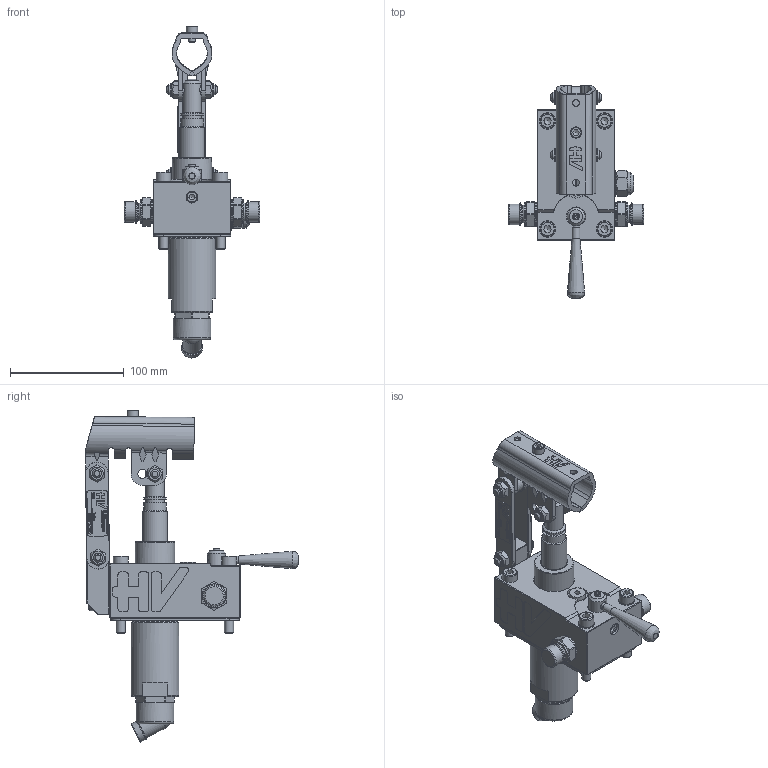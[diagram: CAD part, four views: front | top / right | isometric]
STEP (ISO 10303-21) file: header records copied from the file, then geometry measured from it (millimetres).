
FILE_DESCRIPTION((''),'2;1');
FILE_NAME('G:\HV_HYDRAULIC\AZIENDA_HV_HYDRAULIC\ARCHIVIO_DISEGNI\5_PRODOTTI_FINITI\1_POMPE_MANUALI\6057_PMD_45\6057.5500_PMD_45_byB_(NBR)\6057.5500.stp','2024-03-04T10:37:08',('christian.scardovi'),(''),'Autodesk Inventor 2013','Autodesk Inventor 2013','');
FILE_SCHEMA(('AUTOMOTIVE_DESIGN { 1 0 10303 214 1 1 1 1 }'));
Length unit declared in the file: millimetre
Products named in the file (1): 6057.5500
Bounding box: 119 x 187 x 291.58 mm (x, y, z)
Surface area: 135612.9 mm2
Topology: 2 solids, 3 shells, 1449 faces, 3646 edges, 2340 vertices
Faces by surface type: plane 809, cylinder 278, bspline 155, cone 151, torus 52, sphere 4
Full cylindrical faces by diameter (mm): 4 x2, 4.917 x1, 5 x6, 6 x7, 6.5 x2, 7 x2, 8 x15, 8.917 x1, 9 x1, 9.2 x1, 10 x3, 10.376 x1, 10.5 x1, 11.05 x6, 12 x5, 13 x6, 13.2 x1, 14 x3, 14.5 x4, 14.95 x2, 15.9 x2, 16 x7, 16.6 x4, 17 x1, 17.5 x1, 18 x5, 19 x2, 20 x6, 21 x6, 21.6 x1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
Entity records: 43956 total; most frequent: CARTESIAN_POINT 10539, ORIENTED_EDGE 6562, DIRECTION 6058, EDGE_CURVE 3281, VERTEX_POINT 2235, AXIS2_PLACEMENT_3D 2077, VECTOR 1904, LINE 1904
